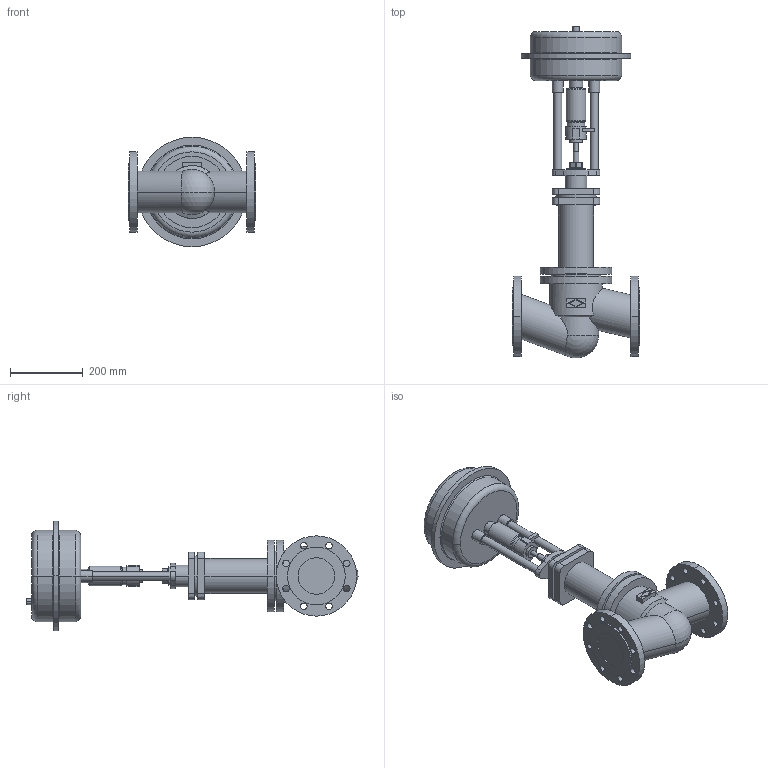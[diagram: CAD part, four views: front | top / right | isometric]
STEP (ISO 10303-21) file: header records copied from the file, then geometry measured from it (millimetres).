
FILE_DESCRIPTION(('OneSpaceDesigner STEP Export'),'2;1');
FILE_NAME('c000002082.stp','2005-12-12T11:15:40',(''),(''),'OneSpace Designer STEP processor for AP203 (Solid Model)','OneSpace Designer 13.20A 18-Aug-2005 (C) CoCreate Software GmbH','');
FILE_SCHEMA(('CONFIG_CONTROL_DESIGN'));
Length unit declared in the file: millimetre
Products named in the file (1): 1
Bounding box: 350 x 909.77 x 300 mm (x, y, z)
Volume: 16988039.7 mm3; surface area: 846421.6 mm2
Topology: 1 solids, 1 shells, 222 faces, 547 edges, 357 vertices
Faces by surface type: cylinder 116, plane 82, torus 16, cone 6, sphere 2
Entity records: 6219 total; most frequent: CARTESIAN_POINT 1257, ORIENTED_EDGE 1090, DIRECTION 909, EDGE_CURVE 545, VERTEX_POINT 357, AXIS2_PLACEMENT_3D 330, EDGE_LOOP 290, VECTOR 249
